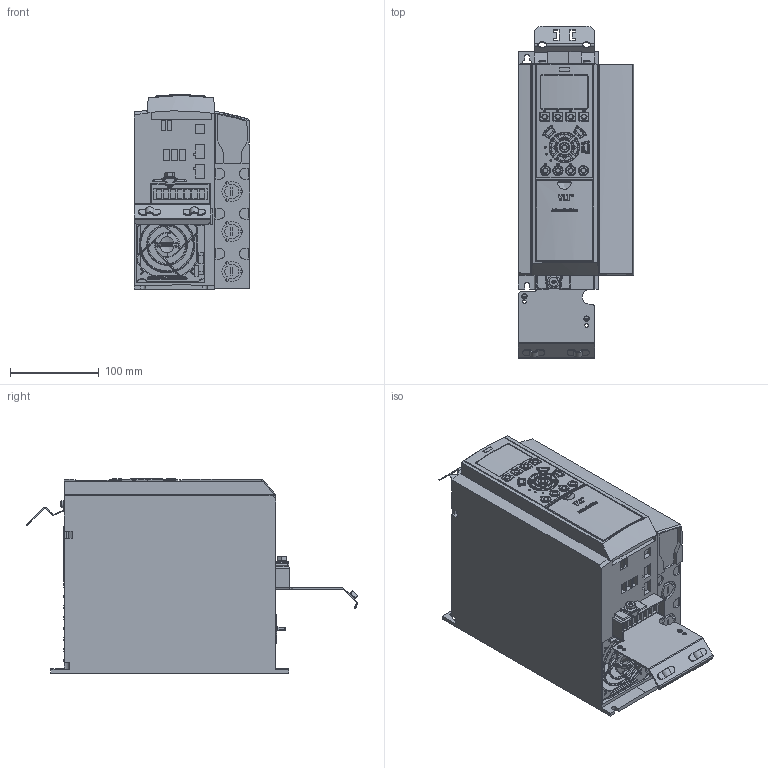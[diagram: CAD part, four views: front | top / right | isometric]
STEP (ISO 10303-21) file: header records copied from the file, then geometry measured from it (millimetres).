
FILE_DESCRIPTION((''),'2;1');
FILE_NAME('DANFOSS-FC300-A2-IP20-ABC-015','2007-03-07T',('Janardhan.Mankala'),('dan Drives A/S'),'PRO/ENGINEER BY PARAMETRIC TECHNOLOGY CORPORATION, 2006200','PRO/ENGINEER BY PARAMETRIC TECHNOLOGY CORPORATION, 2006200','');
FILE_SCHEMA(('CONFIG_CONTROL_DESIGN', 'GEOMETRIC_VALIDATION_PROPERTIES_MIM'));
Products named in the file (1): DANFOSS-FC300-A2-IP20-ABC-015
Bounding box: 130.2 x 373.69 x 218.95 mm (x, y, z)
Volume: 6102344.7 mm3; surface area: 317811 mm2
Topology: 1 solids, 21 shells, 2990 faces, 7721 edges, 4871 vertices
Faces by surface type: plane 1203, cylinder 708, bspline 657, extrusion 182, torus 153, cone 53, sphere 34
Entity records: 185567 total; most frequent: CARTESIAN_POINT 73742, ORIENTED_EDGE 15404, DIRECTION 10798, PRESENTATION_STYLE_ASSIGNMENT 10090, STYLED_ITEM 7919, CURVE_STYLE 7706, EDGE_CURVE 7702, VERTEX_POINT 4871
